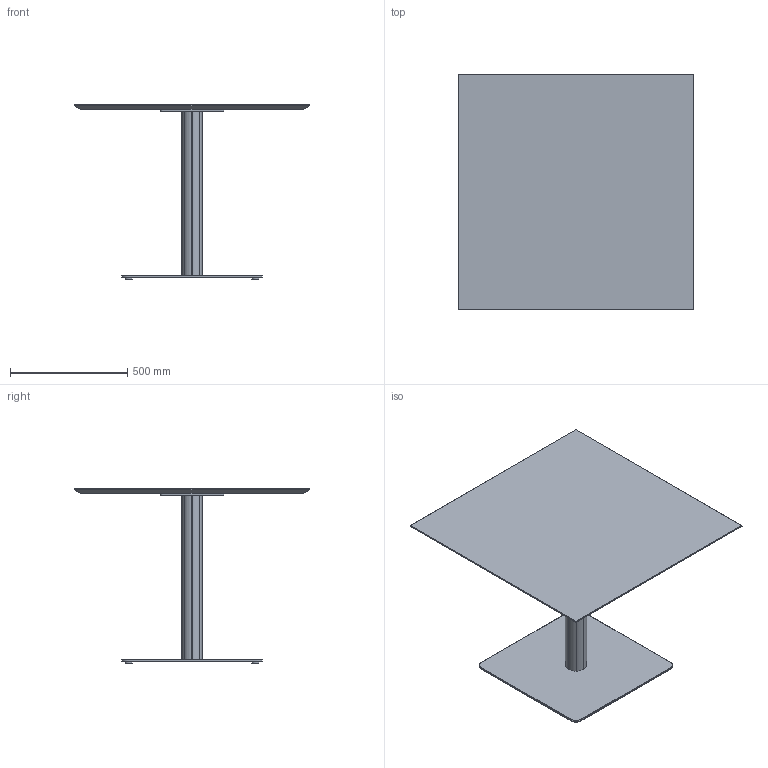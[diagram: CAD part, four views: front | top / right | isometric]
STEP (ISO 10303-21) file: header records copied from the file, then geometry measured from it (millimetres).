
FILE_DESCRIPTION( ('This file contains a STEP AP42 implementation' ,'as created by ZW3D STEP Interface translator.') ,'2;1' );
FILE_NAME( 'Fut - B_Carré - F4 - M5 - 1000 x 1000 x 750.stp' ,'24 911.164345', (''), ('ZWCAD Software Co.'), 'Version 1.0', 'ZW3D to STEP translator', '' );
FILE_SCHEMA(('AUTOMOTIVE_DESIGN { 1 0 10303 214 1 1 1 1 }'));
Length unit declared in the file: millimetre
Products named in the file (15): 0; PIED BISTROT PARAMETRIQUE_; CROIX ACIER 370 V.02_; CRX-X370-02_; SOCLE ACIER L 600x600 V.02_; SCL-R600-02_; PLA-R30A-01_; PLA-R30A-01; COLONNE ACIER Ø48.5 V.02_; TUB-D048-02_; PLA-R48A-01_; COLONNE BOIS PARAMETIQUE_; WUERTH 0276063020 Euro-screw 6.3x2 Verzinkt_; PLATEAU BISTROT PARAMETRIQUE_; insert_m6_13_
Assembly tree (23 placements, depth 3):
  0
  PIED BISTROT PARAMETRIQUE_
    CROIX ACIER 370 V.02_
      CRX-X370-02_
    SOCLE ACIER L 600x600 V.02_
      SCL-R600-02_
      PLA-R30A-01_
      PLA-R30A-01  x3
    COLONNE ACIER Ø48.5 V.02_
      TUB-D048-02_
      PLA-R48A-01_  x2
    COLONNE BOIS PARAMETIQUE_
    WUERTH 0276063020 Euro-screw 6.3x2 Verzinkt_
    PLATEAU BISTROT PARAMETRIQUE_
      insert_m6_13_  x8
Bounding box: 1000 x 1000 x 744 mm (x, y, z)
Volume: 25615061.2 mm3; surface area: 3559469.5 mm2
Topology: 23 solids, 23 shells, 557 faces, 1354 edges, 850 vertices
Faces by surface type: plane 282, bspline 125, cylinder 104, cone 45, torus 1
Full cylindrical faces by diameter (mm): 4.88 x1, 6 x8, 6.3 x1, 8 x45, 12 x2, 14 x2, 30 x4, 44.5 x3, 48.5 x1
Entity records: 13027 total; most frequent: CARTESIAN_POINT 3533, ORIENTED_EDGE 1722, DIRECTION 1612, EDGE_CURVE 861, VECTOR 554, LINE 554, VERTEX_POINT 552, AXIS2_PLACEMENT_3D 529
